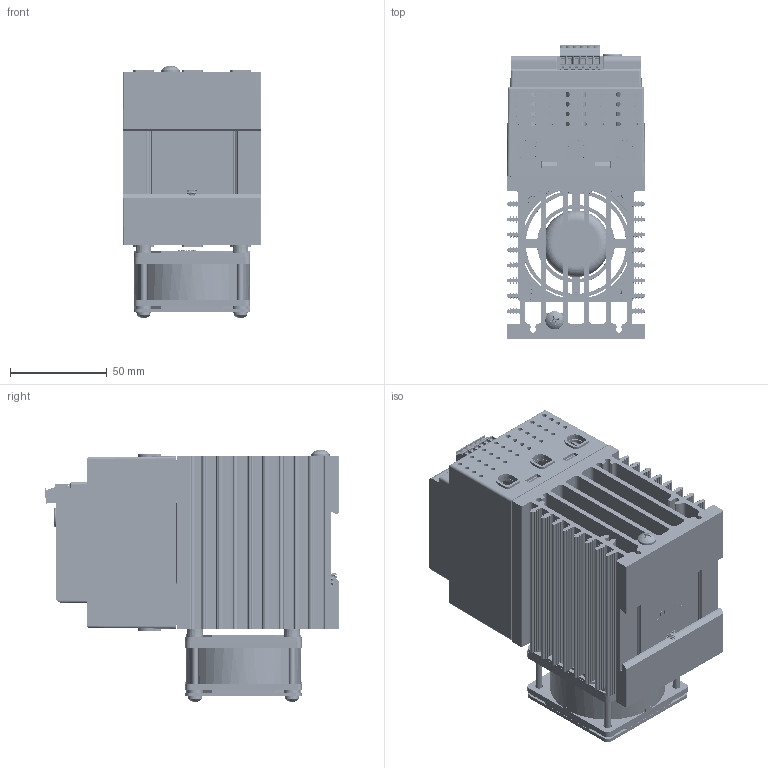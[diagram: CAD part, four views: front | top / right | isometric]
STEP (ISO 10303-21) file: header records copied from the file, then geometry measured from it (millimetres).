
FILE_DESCRIPTION(/* description */ (''),/* implementation_level */ '2;1');
FILE_NAME(/* name */ '3-phase Analog 50+80A.stp',/* time_stamp */ '2024-11-15T09:23:44-06:00',/* author */ ('ErikG'),/* organization */ (''),/* preprocessor_version */ 'ST-DEVELOPER v20',/* originating_system */ 'Autodesk Inventor 2025',/* authorisation */ '');
FILE_SCHEMA (('AUTOMOTIVE_DESIGN { 1 0 10303 214 3 1 1 }'));
Products named in the file (27): 3001632e; 1001590e; P3; TC0203620000G; P2; usb-c31-s-vt-cs4-bk-pp-t-r-model ADAMTECH; P1; fci 6 pin header OQ06120000J0G; fci 6 pin headerOQ06120000J0G half 1; fci 5 pin header OQ05120000J0G half 2; fci 6 pin connector TS06110B00J0G; fci 5 pin connector TS05110B00J0G LEFT HALF; fci 5 pin connector TS05110B00J0G RIGHT HALF; 3001767; 3001760; 3001759; 3001766; 3001765b; 3001746; spring; 0060783-0610-010.ipt; 0060702-1032-0375; 0060002-0632-1175; 62111-0006-0; 3001772; 3001773; 2R36_SQ_FAN_1R0 depth
Assembly tree (33 placements, depth 6):
  3001632e
    1001590e
      P3
        TC0203620000G
      P2
        usb-c31-s-vt-cs4-bk-pp-t-r-model ADAMTECH
      P1
        fci 6 pin header OQ06120000J0G
          fci 6 pin headerOQ06120000J0G half 1
          fci 5 pin header OQ05120000J0G half 2
          fci 6 pin connector TS06110B00J0G
            fci 5 pin connector TS05110B00J0G LEFT HALF
            fci 5 pin connector TS05110B00J0G RIGHT HALF
    3001767
    3001760  x2
    3001759
    3001766
    3001765b
    3001746
    spring
    0060783-0610-010.ipt
    0060702-1032-0375
    0060002-0632-1175  x4
    62111-0006-0  x4
    3001772
    3001773
    2R36_SQ_FAN_1R0 depth
Bounding box: 71.12 x 151.53 x 130.1 mm (x, y, z)
Volume: 338543.5 mm3; surface area: 295484.6 mm2
Topology: 28 solids, 122 shells, 6946 faces, 19313 edges, 12741 vertices
Faces by surface type: plane 4784, cylinder 1515, cone 406, bspline 146, torus 88, sphere 7
Full cylindrical faces by diameter (mm): 0.254 x1, 0.45 x2, 0.55 x2, 0.65 x2, 1 x6, 1.75 x2, 2.15 x12, 2.3 x12, 2.54 x2, 2.642 x6, 2.7 x2, 2.8 x4, 2.95 x6, 3.277 x4, 3.505 x4, 3.6 x2, 4.293 x8, 4.826 x1, 4.917 x1, 6 x1, 6.172 x1, 6.858 x4, 7.493 x8, 7.976 x1, 9.474 x1, 34.29 x1, 57.15 x1, 59.69 x1
Entity records: 236550 total; most frequent: CARTESIAN_POINT 65260, ORIENTED_EDGE 36572, DIRECTION 34007, EDGE_CURVE 18286, LINE 13325, VECTOR 13325, VERTEX_POINT 12065, AXIS2_PLACEMENT_3D 10341
